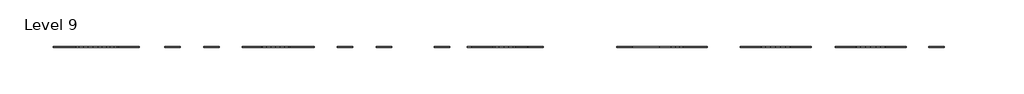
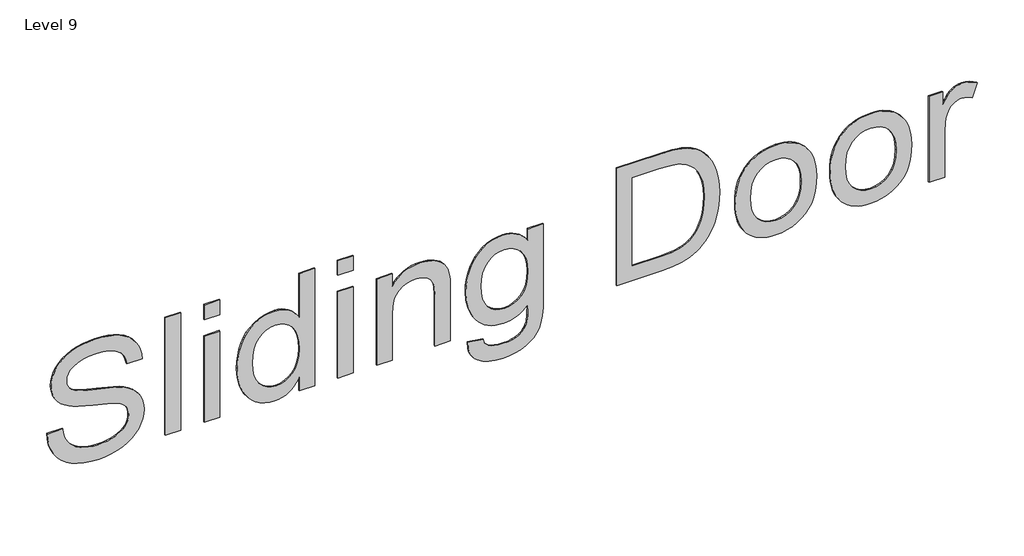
# One storey: 1 proxy.
"""IFC4 building model written with IfcOpenShell, lengths in millimetres."""

from ifc_helpers import new_model, si_unit, frame, origin, place, context, project, spatial, polyline, outline, extrude, element, save

model = new_model("IFC4")

# Units and contexts
model_context = context("Model", 3, world=origin())
ifc_project = project(units=[si_unit("LENGTHUNIT", "METRE", prefix="MILLI")], contexts=[model_context])

# Site, building, storey
site = spatial("IfcSite", under=ifc_project)
building = spatial("IfcBuilding", under=site)
storey = spatial("IfcBuildingStorey", under=building, Name="Level 9", Elevation=24000.0)

# Proxy
placement = place(None, origin())
element("IfcBuildingElementProxy", 1, Name="1200mm Arial", ObjectType="1200mm Arial", at=placement, inside=storey, context=model_context, shape_type="SweptSolid", body=[
    extrude(outline(polyline([(25424.9429249, -255685.1415602), (25364.00578, -255679.9947207), (25306.2966181, -255667.7104522), (25251.8154391, -255648.2887548), (25200.5622431, -255621.7296284), (25154.0434221, -255588.7593691), (25113.7653681, -255550.1042733), (25079.7280812, -255505.7643407), (25051.9315613, -255455.7395716), (25030.339942, -255399.6892342), (25014.9173567, -255337.2725971), (25005.6638056, -255268.4896603), (25002.5792885, -255193.3404238), (25005.4396401, -255133.1833748), (25014.0206948, -255076.0929096), (25028.3224526, -255022.0690282), (25048.3449135, -254971.1117306), (25073.5231806, -254924.5749764), (25103.2923567, -254883.812725), (25137.652442, -254848.8249764), (25176.6034363, -254819.6117306), (25218.5223816, -254796.5764856), (25261.7863198, -254780.1227392), (25306.3952509, -254770.2504913), (25352.3491749, -254766.959742), (25398.0251337, -254769.8200936), (25440.9393738, -254778.4011483), (25481.0918951, -254792.7029061), (25518.4826976, -254812.725367), (25552.9324491, -254838.7733961), (25584.261817, -254871.1518585), (25612.4708013, -254909.8607541), (25637.5594022, -254954.9000829), (25654.1117814, -254995.8954664), (25671.9194874, -255052.8872988), (25711.3008795, -255214.8603102), (25732.1393028, -255302.5897136), (25752.7625272, -255371.8120147), (25773.1705528, -255422.5272136), (25793.3633795, -255454.7353102), (25814.6860002, -255475.1971355), (25838.7703397, -255489.812725), (25865.6163979, -255498.5820787), (25895.2241749, -255501.5051966), (25929.6380599, -255497.3805517), (25961.433692, -255485.006617), (25990.6110712, -255464.3833926), (26017.1701976, -255435.5108784), (26039.2639476, -255397.6179451), (26055.0451976, -255349.9334636), (26064.5139476, -255292.4574338), (26067.6701976, -255225.1898556), (26064.4780812, -255160.0025332), (26054.9017317, -255103.3155659), (26038.9411493, -255055.1289537), (26016.596334, -255015.4426966), (25988.0107516, -254983.6649977), (25953.3278681, -254959.2040602), (25912.5476834, -254942.0598841), (25865.6701976, -254932.2324693), (25865.6701976, -254785.3233784), (25915.6860002, -254790.4702179), (25963.011817, -254801.8936909), (26007.6476479, -254819.5937974), (26049.5934931, -254843.5705375), (26087.7374917, -254873.5907789), (26120.9677829, -254909.4213897), (26149.2843667, -254951.0623698), (26172.6872431, -254998.5137193), (26191.015013, -255050.8070431), (26204.1062772, -255106.9739466), (26211.9610357, -255167.0144295), (26214.5792885, -255230.928492), (26212.0776018, -255289.5163826), (26204.5725414, -255345.3425545), (26192.0641074, -255398.4070076), (26174.5522999, -255448.709742), (26152.2074846, -255494.6995325), (26125.2000272, -255534.8251539), (26093.5299278, -255569.0866064), (26057.1971863, -255597.4838897), (26017.8068276, -255619.7659387), (25976.9638766, -255635.681688), (25934.6683333, -255645.2311376), (25890.9201976, -255648.4142875), (25851.4491394, -255645.8408677), (25813.9507374, -255638.1206085), (25778.4249917, -255625.2535098), (25744.8719022, -255607.2395716), (25713.6142672, -255583.9891277), (25684.9748851, -255555.4125119), (25658.9537559, -255521.5097243), (25635.5508795, -255482.2807647), (25618.1108049, -255443.6794686), (25600.2223993, -255392.4352392), (25563.1005954, -255252.0179806), (25530.0675698, -255115.6895005), (25507.0054249, -255038.1103102), (25492.5064015, -255003.5708926), (25476.5547857, -254975.4157079), (25459.1505776, -254953.6447562), (25440.2937772, -254938.2580375), (25419.876785, -254927.5877605), (25397.7920016, -254919.9661341), (25374.039427, -254915.3931582), (25348.6190613, -254913.8688329), (25323.0910961, -254915.9042555), (25298.1549278, -254922.0105233), (25273.8105563, -254932.1876362), (25250.0579817, -254946.4355943), (25227.8566323, -254964.8440637), (25208.1659363, -254987.5027108), (25190.9858937, -255014.4115353), (25176.3165045, -255045.5705375), (25164.5791998, -255080.1278883), (25156.1954107, -255117.2317591), (25151.1651373, -255156.8821497), (25149.4883795, -255199.0790602), (25151.7031344, -255246.781475), (25158.3473993, -255292.0449693), (25169.4211742, -255334.8695431), (25184.924459, -255375.2551966), (25204.0233581, -255411.8569366), (25225.883976, -255443.3297704), (25250.5063127, -255469.673698), (25277.8903681, -255490.8887193), (25308.654839, -255507.8356298), (25343.4184221, -255521.375225), (25382.1811174, -255531.5075048), (25424.9429249, -255538.2324693), (25424.9429249, -255685.1415602)])), frame((0.0, 24202.6264647, 0.0), z_axis=(0.0, 1.0, 0.0), x_axis=(0.0, 0.0, 1.0)), (0.0, 0.0, 1.0), 10.0),
    extrude(outline(polyline([(-254418.0506511, 24202.6264647), (-254564.959742, 24202.6264647), (-254564.959742, 24212.6264647), (-254418.0506511, 24212.6264647), (-254418.0506511, 24202.6264647)])), frame((0.0, 0.0, 25020.9429249), z_axis=(0.0, 0.0, 1.0), x_axis=(1.0, 0.0, 0.0)), (0.0, 0.0, 1.0), 1175.2727273),
    extrude(outline(polyline([(-254050.7779238, 24202.6264647), (-254197.6870147, 24202.6264647), (-254197.6870147, 24212.6264647), (-254050.7779238, 24212.6264647), (-254050.7779238, 24202.6264647)])), frame((0.0, 0.0, 25020.9429249), z_axis=(0.0, 0.0, 1.0), x_axis=(1.0, 0.0, 0.0)), (0.0, 0.0, 1.0), 863.0909091),
    extrude(outline(polyline([(-254050.7779238, 24202.6264647), (-254197.6870147, 24202.6264647), (-254197.6870147, 24212.6264647), (-254050.7779238, 24212.6264647), (-254050.7779238, 24202.6264647)])), frame((0.0, 0.0, 26049.3065613), z_axis=(0.0, 0.0, 1.0), x_axis=(1.0, 0.0, 0.0)), (0.0, 0.0, 1.0), 146.9090909),
    extrude(outline(polyline([(25020.9429249, -253297.8688329), (25020.9429249, -253150.959742), (26196.2156522, -253150.959742), (26196.2156522, -253297.8688329), (25758.3576976, -253297.8688329), (25788.8531699, -253317.9002605), (25816.3537914, -253340.6934068), (25840.859562, -253366.2482718), (25862.3704817, -253394.5648556), (25879.8822893, -253425.3024267), (25892.3907232, -253458.1202534), (25899.8957836, -253493.0183358), (25902.3974704, -253529.9966738), (25898.9004888, -253580.5594402), (25888.4095442, -253628.6653528), (25870.9246366, -253674.3144118), (25846.4457658, -253717.506617), (25815.4033297, -253756.8521426), (25778.227726, -253790.9611625), (25734.9189547, -253819.8336767), (25685.4770158, -253843.4696852), (25631.4800343, -253861.8602214), (25574.5061351, -253874.9963187), (25514.5553184, -253882.8779771), (25451.627584, -253885.5051966), (25387.5252225, -253882.6538116), (25327.2067743, -253874.0996568), (25270.6722395, -253859.8427321), (25217.9216181, -253839.8830375), (25169.8695052, -253814.7406369), (25127.4304959, -253784.9355943), (25090.6045904, -253750.4679096), (25059.3917885, -253711.3375829), (25034.5363198, -253668.8716738), (25016.7824135, -253624.397242), (25006.1300698, -253577.9142875), (25002.5792885, -253529.4228102), (25005.0316589, -253492.3503226), (25012.3887701, -253457.6001894), (25024.650622, -253425.1724107), (25041.8172147, -253395.0669863), (25063.8885481, -253367.2839164), (25090.8646224, -253341.8232008), (25122.7454373, -253318.6848397), (25159.5309931, -253297.8688329), (25020.9429249, -253297.8688329)]), holes=[polyline([(25452.2014476, -253738.5961056), (25525.5573603, -253734.7225261), (25588.3864618, -253723.1017875), (25640.6887523, -253703.7338897), (25682.4642317, -253676.6188329), (25714.4122964, -253643.71134), (25737.2323425, -253606.9661341), (25750.9243702, -253566.383215), (25755.4883795, -253521.9625829), (25750.7360712, -253476.4928564), (25736.4791465, -253434.7711767), (25712.7176053, -253396.7975439), (25679.4514476, -253362.5719579), (25636.0350769, -253334.2643407), (25581.8228965, -253314.0446142), (25516.8149064, -253301.9127782), (25441.0111067, -253297.8688329), (25371.8695052, -253301.8410453), (25312.2145868, -253313.7576823), (25262.0463518, -253333.6187441), (25221.3647999, -253361.4242306), (25189.918866, -253394.9145538), (25167.4574846, -253431.8301255), (25153.9806557, -253472.1709458), (25149.4883795, -253515.9370147), (25154.1958546, -253559.4968514), (25168.31828, -253600.0797704), (25191.8556557, -253637.6857718), (25224.8079817, -253672.3148556), (25267.2649242, -253701.3129025), (25319.3161493, -253722.0257931), (25380.9616572, -253734.4535275), (25452.2014476, -253738.5961056)])]), frame((0.0, 24202.6264647, 0.0), z_axis=(0.0, 1.0, 0.0), x_axis=(0.0, 0.0, 1.0)), (0.0, 0.0, 1.0), 10.0),
    extrude(outline(polyline([(-252783.6870147, 24202.6264647), (-252930.5961056, 24202.6264647), (-252930.5961056, 24212.6264647), (-252783.6870147, 24212.6264647), (-252783.6870147, 24202.6264647)])), frame((0.0, 0.0, 25020.9429249), z_axis=(0.0, 0.0, 1.0), x_axis=(1.0, 0.0, 0.0)), (0.0, 0.0, 1.0), 863.0909091),
    extrude(outline(polyline([(-252783.6870147, 24202.6264647), (-252930.5961056, 24202.6264647), (-252930.5961056, 24212.6264647), (-252783.6870147, 24212.6264647), (-252783.6870147, 24202.6264647)])), frame((0.0, 0.0, 26049.3065613), z_axis=(0.0, 0.0, 1.0), x_axis=(1.0, 0.0, 0.0)), (0.0, 0.0, 1.0), 146.9090909),
    extrude(outline(polyline([(25020.9429249, -252563.3233784), (25020.9429249, -252416.4142875), (25478.8861067, -252416.4142875), (25553.0400485, -252412.2268762), (25614.246192, -252399.6646426), (25639.9938393, -252390.2429673), (25662.5045371, -252378.7275865), (25681.7782854, -252365.1185), (25697.815084, -252349.4157079), (25723.0471508, -252314.3293265), (25741.0700556, -252276.0687619), (25751.8837985, -252234.634014), (25755.4883795, -252190.0250829), (25753.8833546, -252161.9864643), (25749.06828, -252135.8308358), (25741.0431557, -252111.5581973), (25729.8079817, -252089.1685488), (25715.8828219, -252069.3433535), (25699.7877403, -252052.7640744), (25681.5227367, -252039.4307115), (25661.0878113, -252029.3432647), (25636.8241394, -252021.9368372), (25607.0728965, -252016.6465318), (25531.1076976, -252012.4142875), (25020.9429249, -252012.4142875), (25020.9429249, -251865.5051966), (25550.9059931, -251865.5051966), (25637.2007374, -251867.4419863), (25692.9372431, -251873.2523556), (25751.2202687, -251890.5758642), (25800.9670726, -251917.2963897), (25822.6124917, -251934.9964963), (25842.0700556, -251956.6777818), (25859.3397644, -251982.3402463), (25874.4216181, -252011.9838897), (25886.6610535, -252044.3802853), (25895.4035073, -252078.3010062), (25900.6489796, -252113.7460524), (25902.3974704, -252150.7154238), (25900.2275485, -252192.9033677), (25893.7177829, -252232.5268585), (25882.8681735, -252269.5858961), (25867.6787204, -252304.0804806), (25848.1494235, -252336.010612), (25824.2802829, -252365.3762903), (25796.0712985, -252392.1775154), (25763.5224704, -252416.4142875), (25884.033834, -252416.4142875), (25884.033834, -252563.3233784), (25020.9429249, -252563.3233784)])), frame((0.0, 24202.6264647, 0.0), z_axis=(0.0, 1.0, 0.0), x_axis=(0.0, 0.0, 1.0)), (0.0, 0.0, 1.0), 10.0),
    extrude(outline(polyline([(24947.4883795, -251700.2324693), (24882.8121543, -251695.7939927), (24853.7221996, -251689.0623033), (24826.7976834, -251679.322313), (24802.0386058, -251666.574022), (24779.4449668, -251650.8174302), (24759.0167664, -251632.0525376), (24740.7540045, -251610.2793443), (24710.6889299, -251560.093176), (24689.2138766, -251502.644046), (24676.3288447, -251437.9319544), (24672.033834, -251365.9569011), (24675.0824846, -251304.7776575), (24684.2284363, -251248.6376539), (24699.4716891, -251197.5368904), (24720.8122431, -251151.475367), (24747.3982694, -251110.8655481), (24778.3779391, -251076.1198983), (24813.7512523, -251047.2384174), (24853.518209, -251024.2211056), (24902.8256486, -251006.6465318), (24966.8204107, -250994.0932647), (25045.5024952, -250986.5613045), (25138.8719022, -250984.0506511), (25884.033834, -250984.0506511), (25884.033834, -251130.959742), (25773.8520158, -251130.959742), (25803.9798567, -251154.9947651), (25830.0906522, -251180.6168798), (25852.1844022, -251207.8260861), (25870.2611067, -251236.6223841), (25884.3207658, -251267.0057736), (25894.3633795, -251298.9762548), (25900.3889476, -251332.5338276), (25902.3974704, -251367.678492), (25898.8466891, -251419.7297171), (25888.1943454, -251468.2839608), (25870.4404391, -251513.3412228), (25845.5849704, -251554.9015034), (25814.2107694, -251592.3640389), (25776.9006664, -251625.1280659), (25733.6546614, -251653.1935843), (25684.4727545, -251676.5605943), (25631.1303361, -251694.9511305), (25575.4027971, -251708.0872278), (25517.2901373, -251715.9688862), (25456.7923567, -251718.5961056), (25370.31828, -251712.7409032), (25329.475329, -251705.4219002), (25290.2284363, -251695.175296), (25252.5776018, -251682.0010906), (25216.5228255, -251665.8992839), (25182.0641074, -251646.8698761), (25149.2014476, -251624.912867), (25119.1408564, -251600.2882887), (25093.0883439, -251573.2561731), (25071.0439104, -251543.8165202), (25053.0075556, -251511.9693301), (25038.9792797, -251477.7146026), (25028.9590826, -251441.0523379), (25022.9469643, -251401.9825359), (25020.9429249, -251360.5051966), (25022.6645158, -251326.8534743), (25027.8292885, -251294.6184778), (25036.4372431, -251263.8002072), (25048.4883795, -251234.3986625), (25063.9826976, -251206.4138436), (25082.9201976, -251179.8457505), (25105.3008795, -251154.6943833), (25131.1247431, -251130.959742), (25023.0231806, -251133.0399977), (24959.8264476, -251141.0023556), (24928.2639476, -251152.4796284), (24900.4315613, -251168.2608784), (24876.3292885, -251188.3461056), (24855.9571295, -251212.7353102), (24839.763415, -251242.0382221), (24828.196476, -251276.8645716), (24821.2563127, -251317.2143585), (24818.9429249, -251363.0875829), (24820.9873141, -251405.8942235), (24827.1204817, -251443.9306227), (24837.3424278, -251477.1967804), (24851.6531522, -251505.6926966), (24865.6410783, -251523.3031369), (24883.2156522, -251537.1117306), (24904.3768738, -251547.1184778), (24929.1247431, -251553.3233784), (24947.4883795, -251700.2324693)]), holes=[polyline([(25466.8349704, -251571.6870147), (25534.0218489, -251567.7148024), (25592.4035073, -251555.7981653), (25641.9799455, -251535.9371035), (25682.7511635, -251508.131617), (25714.5736955, -251474.6592271), (25737.3040755, -251437.7974551), (25750.9423035, -251397.546301), (25755.4883795, -251353.9057647), (25750.8705705, -251309.5209991), (25737.0171437, -251268.4718159), (25713.9280989, -251230.758215), (25681.6034363, -251196.3801966), (25640.2045549, -251167.7587477), (25589.8928539, -251147.3148556), (25530.6683333, -251135.0485204), (25462.5309931, -251130.959742), (25391.4257019, -251134.9319544), (25330.4706238, -251146.8485914), (25279.6657587, -251166.7096532), (25239.0111067, -251194.5151397), (25207.8790045, -251228.166862), (25185.6417885, -251265.5666312), (25172.299459, -251306.7144473), (25167.8520158, -251351.6103102), (25172.3263589, -251396.9545041), (25185.749388, -251438.2995858), (25208.1211032, -251475.6455552), (25239.4415045, -251508.9924125), (25280.4996543, -251536.421301), (25332.0846153, -251556.0133642), (25394.1963873, -251567.7686021), (25466.8349704, -251571.6870147)])]), frame((0.0, 24202.6264647, 0.0), z_axis=(0.0, 1.0, 0.0), x_axis=(0.0, 0.0, 1.0)), (0.0, 0.0, 1.0), 10.0),
    extrude(outline(polyline([(25020.9429249, -250286.2324693), (25020.9429249, -249861.2864466), (25025.9642317, -249760.6809778), (25041.0281522, -249672.3418443), (25065.811888, -249596.1255801), (25081.7276373, -249562.5097243), (25099.9926408, -249531.8887193), (25121.234562, -249503.3390034), (25146.0810641, -249475.9370147), (25174.5321472, -249449.6827534), (25206.5878113, -249424.5762193), (25242.678454, -249401.1554096), (25283.2344732, -249379.9583216), (25328.2558688, -249360.9849551), (25377.7426408, -249344.2353102), (25431.3540577, -249330.5522491), (25488.749388, -249320.7786341), (25549.9286316, -249314.914465), (25614.8917885, -249312.959742), (25691.3232516, -249315.8469934), (25763.3790045, -249324.5087477), (25831.0590471, -249338.9450048), (25894.3633795, -249359.1557647), (25952.7540045, -249385.176894), (26005.6929249, -249417.0442591), (26053.1801408, -249454.7578599), (26095.2156522, -249498.3176966), (26123.2811706, -249536.0133642), (26146.6481806, -249577.3674125), (26165.316682, -249622.3798414), (26179.2866749, -249671.0506511), (26186.6931025, -249711.2749054), (26191.9834079, -249759.64085), (26196.2156522, -249880.7978102), (26196.2156522, -250286.2324693), (25020.9429249, -250286.2324693)]), holes=[polyline([(25167.8520158, -250139.3233784), (26049.3065613, -250139.3233784), (26049.3065613, -249883.3801966), (26047.8360357, -249816.5609494), (26043.424459, -249759.569117), (26036.0718312, -249712.4046994), (26025.7781522, -249675.0676966), (26005.2625272, -249631.8575581), (25976.7128113, -249592.0368017), (25940.1290045, -249555.6054274), (25895.5111067, -249522.5634352), (25841.6396579, -249495.1345467), (25777.2951976, -249475.5424835), (25702.477726, -249463.7872456), (25617.1872431, -249459.8688329), (25554.3402083, -249461.868389), (25496.3530812, -249467.8670573), (25443.2258617, -249477.8648379), (25394.9585499, -249491.8617306), (25351.4614796, -249509.4452711), (25312.6449846, -249530.2029948), (25278.5090648, -249554.1349018), (25249.0537204, -249581.240992), (25230.7797502, -249603.2271426), (25214.6936351, -249628.7282079), (25200.7953752, -249657.744188), (25189.0849704, -249690.2750829), (25179.7955528, -249727.8093514), (25173.1602545, -249771.8354522), (25167.8520158, -249879.3631511), (25167.8520158, -250139.3233784)])]), frame((0.0, 24202.6264647, 0.0), z_axis=(0.0, 1.0, 0.0), x_axis=(0.0, 0.0, 1.0)), (0.0, 0.0, 1.0), 10.0),
    extrude(outline(polyline([(25452.4883795, -249166.0506511), (25399.5673922, -249164.3851016), (25349.8385215, -249159.3884529), (25303.3017672, -249151.0607053), (25259.9571295, -249139.4018585), (25219.8046081, -249124.4119126), (25182.8442033, -249106.0908677), (25149.075915, -249084.4387237), (25118.4997431, -249059.4554806), (25091.3308866, -249031.7732852), (25067.7845442, -249002.0242839), (25047.8607161, -248970.2084769), (25031.5594022, -248936.3258642), (25018.8806025, -248900.3764457), (25009.824317, -248862.3602214), (25004.3905456, -248822.2771914), (25002.5792885, -248780.1273556), (25005.8700378, -248727.2332683), (25015.7422857, -248676.4373698), (25032.1960322, -248627.7396603), (25055.2312772, -248581.1401397), (25084.2203574, -248538.3065993), (25118.5356096, -248500.9068301), (25158.1770336, -248468.9408322), (25203.1446295, -248442.4086056), (25255.2048212, -248421.5701823), (25316.1240329, -248406.6855943), (25385.9022644, -248397.7548414), (25464.5395158, -248394.7779238), (25514.440994, -248396.4614066), (25561.5673035, -248401.5118549), (25605.9184443, -248409.9292688), (25647.4944164, -248421.7136483), (25686.2952198, -248436.8649932), (25722.3208546, -248455.3833038), (25755.5713207, -248477.2685799), (25786.0466181, -248502.5208216), (25813.3163491, -248530.4271825), (25836.950116, -248560.2748166), (25856.9479187, -248592.0637237), (25873.3097573, -248625.7939039), (25886.0356318, -248661.4653572), (25895.1255421, -248699.0780836), (25900.5794883, -248738.6320831), (25902.3974704, -248780.1273556), (25896.4257019, -248853.5460346), (25888.9609913, -248888.0764856), (25878.5103965, -248921.1543443), (25865.0739175, -248952.7796106), (25848.6515542, -248982.9522846), (25829.2433067, -249011.6723663), (25806.8491749, -249038.9398556), (25776.0802207, -249068.7314483), (25741.4466536, -249094.5508287), (25702.9484736, -249116.3979966), (25660.5856806, -249134.2729522), (25614.3582747, -249148.1756955), (25564.2662559, -249158.1062264), (25510.3096241, -249164.0645449), (25452.4883795, -249166.0506511)]), holes=[polyline([(25452.7753113, -249019.1415602), (25524.0151018, -249014.8913826), (25585.6606096, -249002.14085), (25637.7118347, -248980.8899622), (25680.1687772, -248951.1387193), (25713.1211032, -248914.9494437), (25736.6584789, -248874.3844579), (25750.7809043, -248829.4437619), (25755.4883795, -248780.1273556), (25750.7629711, -248731.4117129), (25736.5867459, -248686.8386483), (25712.959704, -248646.4081618), (25679.8818454, -248610.1202534), (25637.6221685, -248580.1807115), (25586.4496721, -248558.7953244), (25526.364356, -248545.9640921), (25457.3662204, -248541.6870147), (25384.4496721, -248545.9371923), (25321.5040045, -248558.687725), (25268.5292175, -248579.9386127), (25225.5253113, -248609.6898556), (25192.2591536, -248645.8432647), (25168.4976124, -248686.3006511), (25154.2406877, -248731.0620147), (25149.4883795, -248780.1273556), (25154.2137878, -248829.4437619), (25168.390013, -248874.3844579), (25192.0170549, -248914.9494437), (25225.0949135, -248951.1387193), (25267.6773887, -248980.8899622), (25319.81828, -249002.14085), (25381.5175876, -249014.8913826), (25452.7753113, -249019.1415602)])]), frame((0.0, 24202.6264647, 0.0), z_axis=(0.0, 1.0, 0.0), x_axis=(0.0, 0.0, 1.0)), (0.0, 0.0, 1.0), 10.0),
    extrude(outline(polyline([(25452.4883795, -248266.2324693), (25399.5673922, -248264.5669197), (25349.8385215, -248259.5702711), (25303.3017672, -248251.2425234), (25259.9571295, -248239.5836767), (25219.8046081, -248224.5937308), (25182.8442033, -248206.2726859), (25149.075915, -248184.6205419), (25118.4997431, -248159.6372988), (25091.3308866, -248131.9551033), (25067.7845442, -248102.2061021), (25047.8607161, -248070.3902951), (25031.5594022, -248036.5076823), (25018.8806025, -248000.5582638), (25009.824317, -247962.5420396), (25004.3905456, -247922.4590096), (25002.5792885, -247880.3091738), (25005.8700378, -247827.4150865), (25015.7422857, -247776.619188), (25032.1960322, -247727.9214785), (25055.2312772, -247681.3219579), (25084.2203574, -247638.4884174), (25118.5356096, -247601.0886483), (25158.1770336, -247569.1226504), (25203.1446295, -247542.5904238), (25255.2048212, -247521.7520005), (25316.1240329, -247506.8674125), (25385.9022644, -247497.9366596), (25464.5395158, -247494.959742), (25514.440994, -247496.6432248), (25561.5673035, -247501.6936731), (25605.9184443, -247510.111087), (25647.4944164, -247521.8954664), (25686.2952198, -247537.0468114), (25722.3208546, -247555.565122), (25755.5713207, -247577.4503981), (25786.0466181, -247602.7026397), (25813.3163491, -247630.6090007), (25836.950116, -247660.4566348), (25856.9479187, -247692.2455419), (25873.3097573, -247725.9757221), (25886.0356318, -247761.6471754), (25895.1255421, -247799.2599018), (25900.5794883, -247838.8139013), (25902.3974704, -247880.3091738), (25896.4257019, -247953.7278528), (25888.9609913, -247988.2583038), (25878.5103965, -248021.3361625), (25865.0739175, -248052.9614288), (25848.6515542, -248083.1341028), (25829.2433067, -248111.8541845), (25806.8491749, -248139.1216738), (25776.0802207, -248168.9132665), (25741.4466536, -248194.7326468), (25702.9484736, -248216.5798148), (25660.5856806, -248234.4547704), (25614.3582747, -248248.3575137), (25564.2662559, -248258.2880446), (25510.3096241, -248264.2463631), (25452.4883795, -248266.2324693)]), holes=[polyline([(25452.7753113, -248119.3233784), (25524.0151018, -248115.0732008), (25585.6606096, -248102.3226681), (25637.7118347, -248081.0717804), (25680.1687772, -248051.3205375), (25713.1211032, -248015.1312619), (25736.6584789, -247974.5662761), (25750.7809043, -247929.6255801), (25755.4883795, -247880.3091738), (25750.7629711, -247831.5935311), (25736.5867459, -247787.0204664), (25712.959704, -247746.5899799), (25679.8818454, -247710.3020716), (25637.6221685, -247680.3625296), (25586.4496721, -247658.9771426), (25526.364356, -247646.1459103), (25457.3662204, -247641.8688329), (25384.4496721, -247646.1190105), (25321.5040045, -247658.8695431), (25268.5292175, -247680.1204309), (25225.5253113, -247709.8716738), (25192.2591536, -247746.0250829), (25168.4976124, -247786.4824693), (25154.2406877, -247831.2438329), (25149.4883795, -247880.3091738), (25154.2137878, -247929.6255801), (25168.390013, -247974.5662761), (25192.0170549, -248015.1312619), (25225.0949135, -248051.3205375), (25267.6773887, -248081.0717804), (25319.81828, -248102.3226681), (25381.5175876, -248115.0732008), (25452.7753113, -248119.3233784)])]), frame((0.0, 24202.6264647, 0.0), z_axis=(0.0, 1.0, 0.0), x_axis=(0.0, 0.0, 1.0)), (0.0, 0.0, 1.0), 10.0),
    extrude(outline(polyline([(25020.9429249, -247329.6870147), (25020.9429249, -247182.7779238), (25474.5821295, -247182.7779238), (25564.1048567, -247176.8240886), (25606.0686351, -247169.3817946), (25646.1673567, -247158.9625829), (25670.4489618, -247149.6283322), (25691.9329817, -247137.6937619), (25710.6194164, -247123.158872), (25726.5082658, -247106.0236625), (25739.1870655, -247087.0054629), (25748.243351, -247066.8216028), (25753.6771224, -247045.4720822), (25755.4883795, -247022.9569011), (25753.6053894, -246997.1330375), (25747.9564192, -246971.3091738), (25738.5414689, -246945.4853102), (25725.3605385, -246919.6614466), (25857.0622431, -246870.5961056), (25876.896405, -246907.897242), (25891.0636635, -246944.9114466), (25899.5640187, -246981.6387193), (25902.3974704, -247018.0790602), (25900.6220797, -247042.5399977), (25895.2959079, -247065.9966738), (25886.4189547, -247088.4490886), (25873.9912204, -247109.897242), (25855.9862488, -247131.3095289), (25830.377584, -247153.6543443), (25797.165226, -247176.931688), (25756.3491749, -247201.1415602), (25884.033834, -247201.1415602), (25884.033834, -247329.6870147), (25020.9429249, -247329.6870147)])), frame((0.0, 24202.6264647, 0.0), z_axis=(0.0, 1.0, 0.0), x_axis=(0.0, 0.0, 1.0)), (0.0, 0.0, 1.0), 10.0),
])

save(model, "model.ifc")
